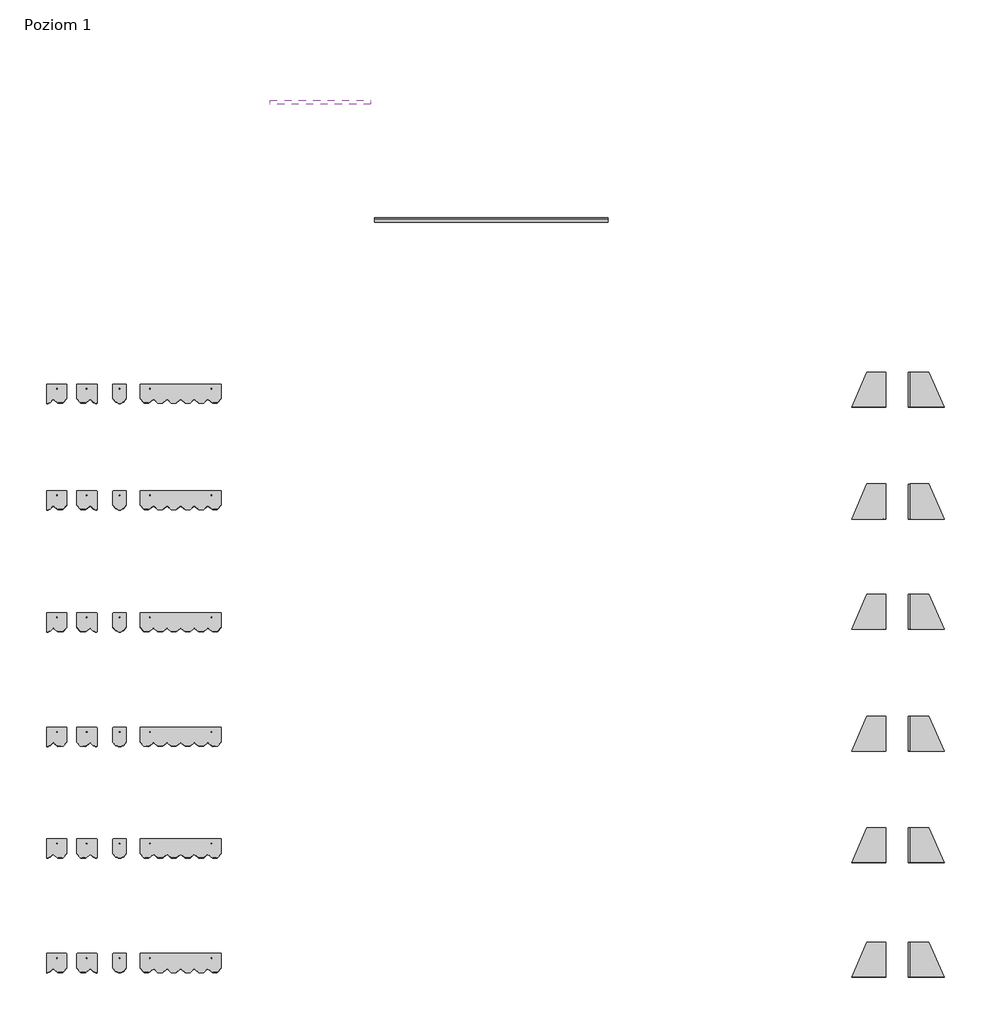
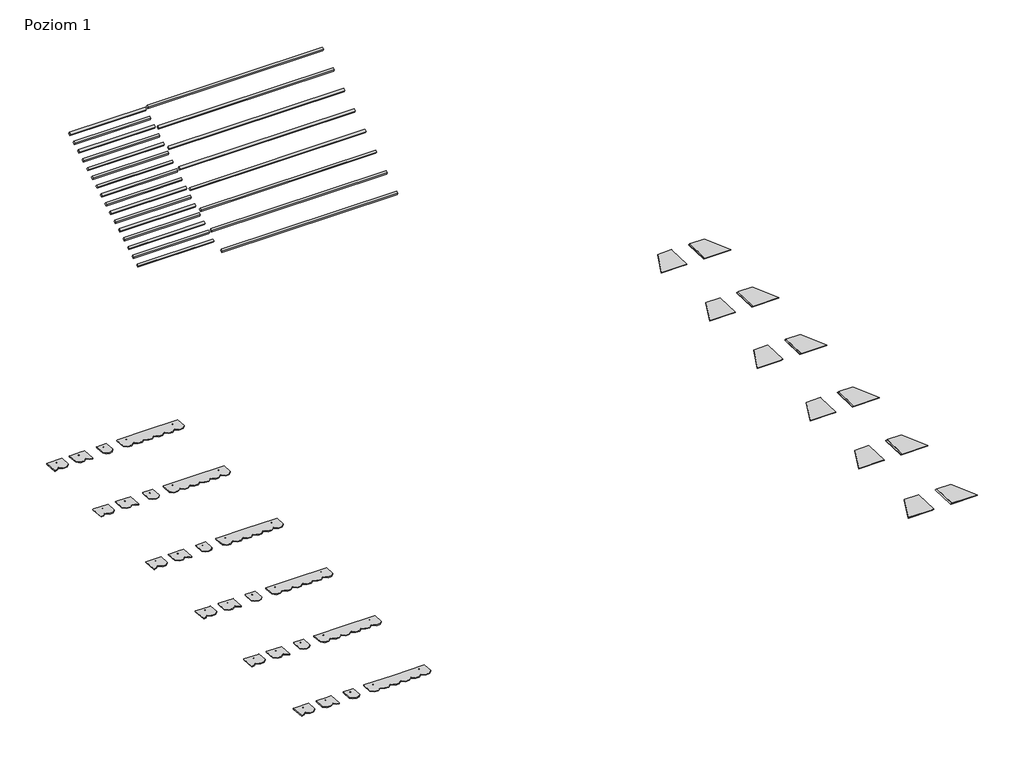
# One storey, incomplete: 38 proxies.
"""IFC4 building model written with IfcOpenShell, lengths in millimetres."""

from ifc_helpers import new_model, si_unit, origin, place, context, project, spatial, transform, mapped, element, save
from components import specialty_equipment_26cd32d4, specialty_equipment_566277b8, specialty_equipment_88a180ae, specialty_equipment_60fe5929, battens_battens_fa787d6b, battens_battens_bb6d5e07, k_1x_9c92190e, k_1x_c00a25de, k_6x_58b1c2f9, k_6x_eb94dbcc, left_custom_250x450_10dc3419, right_custom_250x450_20a4991b

model = new_model("IFC4")

# Units and contexts
model_context = context("Model", 3, world=origin())
ifc_project = project(units=[si_unit("LENGTHUNIT", "METRE", prefix="MILLI")], contexts=[model_context])

# Site, building, storey
site = spatial("IfcSite", under=ifc_project)
building = spatial("IfcBuilding", under=site)
storey = spatial("IfcBuildingStorey", under=building, Name="Poziom 1", Elevation=0.0)

# Proxies
placement = place(None, origin())
specialty_equipment_shape = specialty_equipment_26cd32d4(model_context)
element("IfcBuildingElementProxy", 1, Name="ML-PR-V-P-RED-P : K 1,5X-L", ObjectType="ML-PR-V-P-RED-P : K 1,5X-L", at=placement, inside=storey, context=model_context, shape_type="MappedRepresentation", body=[
    mapped(specialty_equipment_shape, transform((-4400.7886234, -406.3448256, 0.0), x_axis=(1.0, 0.0, 0.0), y_axis=(0.0, 1.0, 0.0), z_axis=(0.0, 0.0, 1.0))),
])
specialty_equipment_2_shape = specialty_equipment_566277b8(model_context)
element("IfcBuildingElementProxy", 2, Name="ML-PR-V-P-RED-P : K 1,5X-P", ObjectType="ML-PR-V-P-RED-P : K 1,5X-P", at=placement, inside=storey, context=model_context, shape_type="MappedRepresentation", body=[
    mapped(specialty_equipment_2_shape, transform((-4090.7886234, -406.3448256, 0.0), x_axis=(1.0, 0.0, 0.0), y_axis=(0.0, 1.0, 0.0), z_axis=(0.0, 0.0, 1.0))),
])
specialty_equipment_3_shape = specialty_equipment_88a180ae(model_context)
element("IfcBuildingElementProxy", 3, Name="ML-PR-V-P-RED-N : K 1,5X-L", ObjectType="ML-PR-V-P-RED-N : K 1,5X-L", at=placement, inside=storey, context=model_context, shape_type="MappedRepresentation", body=[
    mapped(specialty_equipment_3_shape, transform((-4400.7886234, -1819.5173248, 0.0), x_axis=(1.0, 0.0, 0.0), y_axis=(0.0, 1.0, 0.0), z_axis=(0.0, 0.0, 1.0))),
])
specialty_equipment_4_shape = specialty_equipment_60fe5929(model_context)
element("IfcBuildingElementProxy", 4, Name="ML-PR-V-P-RED-N : K 1,5X-P", ObjectType="ML-PR-V-P-RED-N : K 1,5X-P", at=placement, inside=storey, context=model_context, shape_type="MappedRepresentation", body=[
    mapped(specialty_equipment_4_shape, transform((-4090.7886234, -1819.5173248, 0.0), x_axis=(1.0, 0.0, 0.0), y_axis=(0.0, 1.0, 0.0), z_axis=(0.0, 0.0, 1.0))),
])
element("IfcBuildingElementProxy", 5, Name="ML-PR-V-P-GREY-P : K 1,5X-L", ObjectType="ML-PR-V-P-GREY-P : K 1,5X-L", at=placement, inside=storey, context=model_context, shape_type="MappedRepresentation", body=[
    mapped(specialty_equipment_shape, transform((-4400.7886234, -3438.674593, 0.0), x_axis=(1.0, 0.0, 0.0), y_axis=(0.0, 1.0, 0.0), z_axis=(0.0, 0.0, 1.0))),
])
element("IfcBuildingElementProxy", 6, Name="ML-PR-V-P-GREY-P : K 1,5X-P", ObjectType="ML-PR-V-P-GREY-P : K 1,5X-P", at=placement, inside=storey, context=model_context, shape_type="MappedRepresentation", body=[
    mapped(specialty_equipment_2_shape, transform((-4090.7886234, -3438.674593, 0.0), x_axis=(1.0, 0.0, 0.0), y_axis=(0.0, 1.0, 0.0), z_axis=(0.0, 0.0, 1.0))),
])
element("IfcBuildingElementProxy", 7, Name="ML-PR-V-P-GREY-N : K 1,5X-L", ObjectType="ML-PR-V-P-GREY-N : K 1,5X-L", at=placement, inside=storey, context=model_context, shape_type="MappedRepresentation", body=[
    mapped(specialty_equipment_shape, transform((-4400.7886234, -4958.674593, 0.0), x_axis=(1.0, 0.0, 0.0), y_axis=(0.0, 1.0, 0.0), z_axis=(0.0, 0.0, 1.0))),
])
element("IfcBuildingElementProxy", 8, Name="ML-PR-V-P-GREY-N : K 1,5X-P", ObjectType="ML-PR-V-P-GREY-N : K 1,5X-P", at=placement, inside=storey, context=model_context, shape_type="MappedRepresentation", body=[
    mapped(specialty_equipment_2_shape, transform((-4090.7886234, -4958.674593, 0.0), x_axis=(1.0, 0.0, 0.0), y_axis=(0.0, 1.0, 0.0), z_axis=(0.0, 0.0, 1.0))),
])
element("IfcBuildingElementProxy", 9, Name="ML-PR-V-P-BLACK-P : K 1,5X-L", ObjectType="ML-PR-V-P-BLACK-P : K 1,5X-L", at=placement, inside=storey, context=model_context, shape_type="MappedRepresentation", body=[
    mapped(specialty_equipment_shape, transform((-4400.7886234, -6438.674593, 0.0), x_axis=(1.0, 0.0, 0.0), y_axis=(0.0, 1.0, 0.0), z_axis=(0.0, 0.0, 1.0))),
])
element("IfcBuildingElementProxy", 10, Name="ML-PR-V-P-BLACK-P : K 1,5X-L", ObjectType="ML-PR-V-P-BLACK-P : K 1,5X-L", at=placement, inside=storey, context=model_context, shape_type="MappedRepresentation", body=[
    mapped(specialty_equipment_shape, transform((-4400.7886234, -7958.674593, 0.0), x_axis=(1.0, 0.0, 0.0), y_axis=(0.0, 1.0, 0.0), z_axis=(0.0, 0.0, 1.0))),
])
element("IfcBuildingElementProxy", 11, Name="ML-PR-V-P-BLACK-P : K 1,5X-P", ObjectType="ML-PR-V-P-BLACK-P : K 1,5X-P", at=placement, inside=storey, context=model_context, shape_type="MappedRepresentation", body=[
    mapped(specialty_equipment_2_shape, transform((-4090.7886234, -6438.674593, 0.0), x_axis=(1.0, 0.0, 0.0), y_axis=(0.0, 1.0, 0.0), z_axis=(0.0, 0.0, 1.0))),
])
element("IfcBuildingElementProxy", 12, Name="ML-PR-V-P-BLACK-P : K 1,5X-P", ObjectType="ML-PR-V-P-BLACK-P : K 1,5X-P", at=placement, inside=storey, context=model_context, shape_type="MappedRepresentation", body=[
    mapped(specialty_equipment_2_shape, transform((-4090.7886234, -7958.674593, 0.0), x_axis=(1.0, 0.0, 0.0), y_axis=(0.0, 1.0, 0.0), z_axis=(0.0, 0.0, 1.0))),
])
battens_battens_shape = battens_battens_fa787d6b(model_context)
element("IfcBuildingElementProxy", 13, Name="Battens : Battens", ObjectType="Battens : Battens", at=placement, inside=storey, context=model_context, shape_type="MappedRepresentation", body=[
    mapped(battens_battens_shape, transform((-230.7886234, 4094.5738656, 2436.9485426), x_axis=(1.0, 0.0, 0.0), y_axis=(0.0, 0.8660254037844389, 0.4999999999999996), z_axis=(0.0, -0.4999999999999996, 0.8660254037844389))),
])
battens_battens_2_shape = battens_battens_bb6d5e07(model_context)
element("IfcBuildingElementProxy", 14, Name="Battens : Battens", ObjectType="Battens : Battens", at=placement, inside=storey, context=model_context, shape_type="MappedRepresentation", body=[
    mapped(battens_battens_2_shape, transform((-1615.027176, 4075.6896109, 2426.045713), x_axis=(1.0, 0.0, 0.0), y_axis=(0.0, 0.8660254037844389, 0.4999999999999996), z_axis=(0.0, -0.4999999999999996, 0.8660254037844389))),
])
k_1x_shape = k_1x_9c92190e(model_context)
element("IfcBuildingElementProxy", 15, Name="ML-PR-V-P-RED-P : K 1X", ObjectType="ML-PR-V-P-RED-P : K 1X", at=placement, inside=storey, context=model_context, shape_type="MappedRepresentation", body=[
    mapped(k_1x_shape, transform((-3610.7886234, -406.3448256, 0.0), x_axis=(1.0, 0.0, 0.0), y_axis=(0.0, 1.0, 0.0), z_axis=(0.0, 0.0, 1.0))),
])
k_1x_2_shape = k_1x_c00a25de(model_context)
element("IfcBuildingElementProxy", 16, Name="ML-PR-V-P-RED-N : K 1X", ObjectType="ML-PR-V-P-RED-N : K 1X", at=placement, inside=storey, context=model_context, shape_type="MappedRepresentation", body=[
    mapped(k_1x_2_shape, transform((-3610.7886234, -1819.5173248, 0.0), x_axis=(1.0, 0.0, 0.0), y_axis=(0.0, 1.0, 0.0), z_axis=(0.0, 0.0, 1.0))),
])
element("IfcBuildingElementProxy", 17, Name="ML-PR-V-P-GREY-P : K 1X", ObjectType="ML-PR-V-P-GREY-P : K 1X", at=placement, inside=storey, context=model_context, shape_type="MappedRepresentation", body=[
    mapped(k_1x_shape, transform((-3610.7886234, -3438.674593, 0.0), x_axis=(1.0, 0.0, 0.0), y_axis=(0.0, 1.0, 0.0), z_axis=(0.0, 0.0, 1.0))),
])
element("IfcBuildingElementProxy", 18, Name="ML-PR-V-P-GREY-N : K 1X", ObjectType="ML-PR-V-P-GREY-N : K 1X", at=placement, inside=storey, context=model_context, shape_type="MappedRepresentation", body=[
    mapped(k_1x_shape, transform((-3610.7886234, -4958.674593, 0.0), x_axis=(1.0, 0.0, 0.0), y_axis=(0.0, 1.0, 0.0), z_axis=(0.0, 0.0, 1.0))),
])
element("IfcBuildingElementProxy", 19, Name="ML-PR-V-P-BLACK-P : K 1X", ObjectType="ML-PR-V-P-BLACK-P : K 1X", at=placement, inside=storey, context=model_context, shape_type="MappedRepresentation", body=[
    mapped(k_1x_shape, transform((-3610.7886234, -6438.674593, 0.0), x_axis=(1.0, 0.0, 0.0), y_axis=(0.0, 1.0, 0.0), z_axis=(0.0, 0.0, 1.0))),
])
element("IfcBuildingElementProxy", 20, Name="ML-PR-V-P-BLACK-P : K 1X", ObjectType="ML-PR-V-P-BLACK-P : K 1X", at=placement, inside=storey, context=model_context, shape_type="MappedRepresentation", body=[
    mapped(k_1x_shape, transform((-3610.7886234, -7958.674593, 0.0), x_axis=(1.0, 0.0, 0.0), y_axis=(0.0, 1.0, 0.0), z_axis=(0.0, 0.0, 1.0))),
])
k_6x_shape = k_6x_58b1c2f9(model_context)
element("IfcBuildingElementProxy", 21, Name="ML-PR-V-P-RED-P : K 6X", ObjectType="ML-PR-V-P-RED-P : K 6X", at=placement, inside=storey, context=model_context, shape_type="MappedRepresentation", body=[
    mapped(k_6x_shape, transform((-3250.7886234, -406.3448256, 0.0), x_axis=(1.0, 0.0, 0.0), y_axis=(0.0, 1.0, 0.0), z_axis=(0.0, 0.0, 1.0))),
])
k_6x_2_shape = k_6x_eb94dbcc(model_context)
element("IfcBuildingElementProxy", 22, Name="ML-PR-V-P-RED-N : K 6X", ObjectType="ML-PR-V-P-RED-N : K 6X", at=placement, inside=storey, context=model_context, shape_type="MappedRepresentation", body=[
    mapped(k_6x_2_shape, transform((-3250.7886234, -1819.5173248, 0.0), x_axis=(1.0, 0.0, 0.0), y_axis=(0.0, 1.0, 0.0), z_axis=(0.0, 0.0, 1.0))),
])
element("IfcBuildingElementProxy", 23, Name="ML-PR-V-P-GREY-P : K 6X", ObjectType="ML-PR-V-P-GREY-P : K 6X", at=placement, inside=storey, context=model_context, shape_type="MappedRepresentation", body=[
    mapped(k_6x_shape, transform((-3250.7886234, -3438.674593, 0.0), x_axis=(1.0, 0.0, 0.0), y_axis=(0.0, 1.0, 0.0), z_axis=(0.0, 0.0, 1.0))),
])
element("IfcBuildingElementProxy", 24, Name="ML-PR-V-P-GREY-N : K 6X", ObjectType="ML-PR-V-P-GREY-N : K 6X", at=placement, inside=storey, context=model_context, shape_type="MappedRepresentation", body=[
    mapped(k_6x_shape, transform((-3250.7886234, -4958.674593, 0.0), x_axis=(1.0, 0.0, 0.0), y_axis=(0.0, 1.0, 0.0), z_axis=(0.0, 0.0, 1.0))),
])
element("IfcBuildingElementProxy", 25, Name="ML-PR-V-P-BLACK-P : K 6X", ObjectType="ML-PR-V-P-BLACK-P : K 6X", at=placement, inside=storey, context=model_context, shape_type="MappedRepresentation", body=[
    mapped(k_6x_shape, transform((-3250.7886234, -6438.674593, 0.0), x_axis=(1.0, 0.0, 0.0), y_axis=(0.0, 1.0, 0.0), z_axis=(0.0, 0.0, 1.0))),
])
element("IfcBuildingElementProxy", 26, Name="ML-PR-V-P-BLACK-P : K 6X", ObjectType="ML-PR-V-P-BLACK-P : K 6X", at=placement, inside=storey, context=model_context, shape_type="MappedRepresentation", body=[
    mapped(k_6x_shape, transform((-3250.7886234, -7958.674593, 0.0), x_axis=(1.0, 0.0, 0.0), y_axis=(0.0, 1.0, 0.0), z_axis=(0.0, 0.0, 1.0))),
])
left_custom_250x450_shape = left_custom_250x450_10dc3419(model_context)
element("IfcBuildingElementProxy", 27, Name="ML-PR-M-P-GREY-P-CUSTOM : Left Custom 250x450", ObjectType="ML-PR-M-P-GREY-P-CUSTOM : Left Custom 250x450", at=placement, inside=storey, context=model_context, shape_type="MappedRepresentation", body=[
    mapped(left_custom_250x450_shape, transform((6558.4996769, -3186.3448256, 0.0), x_axis=(1.0, 0.0, 0.0), y_axis=(0.0, 1.0, 0.0), z_axis=(0.0, 0.0, 1.0))),
])
element("IfcBuildingElementProxy", 28, Name="ML-PR-M-P-GREY-N-CUSTOM : Left Custom 250x450", ObjectType="ML-PR-M-P-GREY-N-CUSTOM : Left Custom 250x450", at=placement, inside=storey, context=model_context, shape_type="MappedRepresentation", body=[
    mapped(left_custom_250x450_shape, transform((6558.4996769, -4806.3448256, 0.0), x_axis=(1.0, 0.0, 0.0), y_axis=(0.0, 1.0, 0.0), z_axis=(0.0, 0.0, 1.0))),
])
element("IfcBuildingElementProxy", 29, Name="ML-PR-M-P-BLACK-P-CUSTOM : Left Custom 250x450", ObjectType="ML-PR-M-P-BLACK-P-CUSTOM : Left Custom 250x450", at=placement, inside=storey, context=model_context, shape_type="MappedRepresentation", body=[
    mapped(left_custom_250x450_shape, transform((6558.4996769, -6286.3448256, 0.0), x_axis=(1.0, 0.0, 0.0), y_axis=(0.0, 1.0, 0.0), z_axis=(0.0, 0.0, 1.0))),
])
element("IfcBuildingElementProxy", 30, Name="ML-PR-M-P-BLACK-N-CUSTOM : Left Custom 250x450", ObjectType="ML-PR-M-P-BLACK-N-CUSTOM : Left Custom 250x450", at=placement, inside=storey, context=model_context, shape_type="MappedRepresentation", body=[
    mapped(left_custom_250x450_shape, transform((6558.4996769, -7806.3448256, 0.0), x_axis=(1.0, 0.0, 0.0), y_axis=(0.0, 1.0, 0.0), z_axis=(0.0, 0.0, 1.0))),
])
element("IfcBuildingElementProxy", 31, Name="ML-PR-M-P-RED-N-CUSTOM : Left Custom 250x450", ObjectType="ML-PR-M-P-RED-N-CUSTOM : Left Custom 250x450", at=placement, inside=storey, context=model_context, shape_type="MappedRepresentation", body=[
    mapped(left_custom_250x450_shape, transform((6558.4996769, -1726.3448256, 0.0), x_axis=(1.0, 0.0, 0.0), y_axis=(0.0, 1.0, 0.0), z_axis=(0.0, 0.0, 1.0))),
])
element("IfcBuildingElementProxy", 32, Name="ML-PR-M-P-RED-P-CUSTOM : Left custom 250x450", ObjectType="ML-PR-M-P-RED-P-CUSTOM : Left custom 250x450", at=placement, inside=storey, context=model_context, shape_type="MappedRepresentation", body=[
    mapped(left_custom_250x450_shape, transform((6558.4996769, -246.3448256, 0.0), x_axis=(1.0, 0.0, 0.0), y_axis=(0.0, 1.0, 0.0), z_axis=(0.0, 0.0, 1.0))),
])
right_custom_250x450_shape = right_custom_250x450_20a4991b(model_context)
element("IfcBuildingElementProxy", 33, Name="ML-PR-M-P-GREY-P-CUSTOM : Right Custom 250x450", ObjectType="ML-PR-M-P-GREY-P-CUSTOM : Right Custom 250x450", at=placement, inside=storey, context=model_context, shape_type="MappedRepresentation", body=[
    mapped(right_custom_250x450_shape, transform((6878.4996769, -3186.3448256, 0.0), x_axis=(1.0, 0.0, 0.0), y_axis=(0.0, 1.0, 0.0), z_axis=(0.0, 0.0, 1.0))),
])
element("IfcBuildingElementProxy", 34, Name="ML-PR-M-P-GREY-N-CUSTOM : Right Custom 250x450", ObjectType="ML-PR-M-P-GREY-N-CUSTOM : Right Custom 250x450", at=placement, inside=storey, context=model_context, shape_type="MappedRepresentation", body=[
    mapped(right_custom_250x450_shape, transform((6878.4996769, -4806.3448256, 0.0), x_axis=(1.0, 0.0, 0.0), y_axis=(0.0, 1.0, 0.0), z_axis=(0.0, 0.0, 1.0))),
])
element("IfcBuildingElementProxy", 35, Name="ML-PR-M-P-BLACK-P-CUSTOM : Right Custom 250x450", ObjectType="ML-PR-M-P-BLACK-P-CUSTOM : Right Custom 250x450", at=placement, inside=storey, context=model_context, shape_type="MappedRepresentation", body=[
    mapped(right_custom_250x450_shape, transform((6878.4996769, -6286.3448256, 0.0), x_axis=(1.0, 0.0, 0.0), y_axis=(0.0, 1.0, 0.0), z_axis=(0.0, 0.0, 1.0))),
])
element("IfcBuildingElementProxy", 36, Name="ML-PR-M-P-BLACK-N-CUSTOM : Right Custom 250x450", ObjectType="ML-PR-M-P-BLACK-N-CUSTOM : Right Custom 250x450", at=placement, inside=storey, context=model_context, shape_type="MappedRepresentation", body=[
    mapped(right_custom_250x450_shape, transform((6878.4996769, -7806.3448256, 0.0), x_axis=(1.0, 0.0, 0.0), y_axis=(0.0, 1.0, 0.0), z_axis=(0.0, 0.0, 1.0))),
])
element("IfcBuildingElementProxy", 37, Name="ML-PR-M-P-RED-N-CUSTOM : Right Custom 250x450", ObjectType="ML-PR-M-P-RED-N-CUSTOM : Right Custom 250x450", at=placement, inside=storey, context=model_context, shape_type="MappedRepresentation", body=[
    mapped(right_custom_250x450_shape, transform((6878.4996769, -1726.3448256, 0.0), x_axis=(1.0, 0.0, 0.0), y_axis=(0.0, 1.0, 0.0), z_axis=(0.0, 0.0, 1.0))),
])
element("IfcBuildingElementProxy", 38, Name="ML-PR-M-P-RED-P-CUSTOM : Right custom 250x450", ObjectType="ML-PR-M-P-RED-P-CUSTOM : Right custom 250x450", at=placement, inside=storey, context=model_context, shape_type="MappedRepresentation", body=[
    mapped(right_custom_250x450_shape, transform((6878.4996769, -246.3448256, 0.0), x_axis=(1.0, 0.0, 0.0), y_axis=(0.0, 1.0, 0.0), z_axis=(0.0, 0.0, 1.0))),
])

save(model, "model.ifc")
